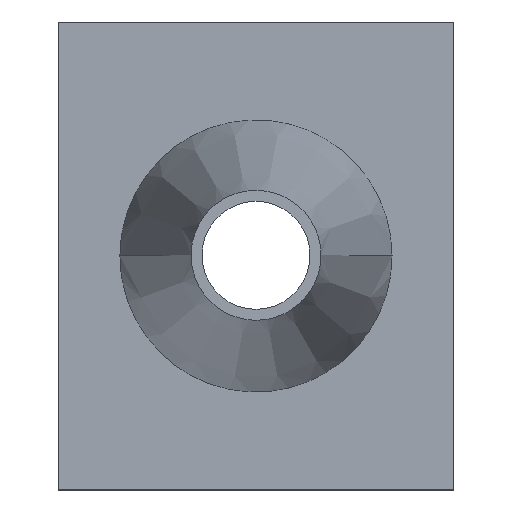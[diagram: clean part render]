
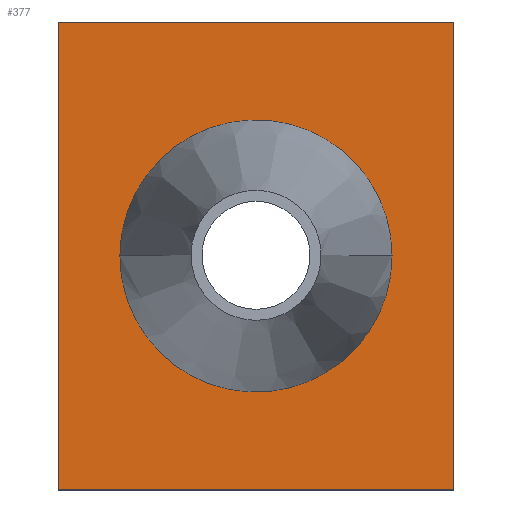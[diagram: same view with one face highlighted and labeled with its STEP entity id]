
A CAD part, top view. The second image highlights one B-rep face of the part: STEP entity #377.
In plain terms, the highlighted planar face has unit normal (0, 0, 1).
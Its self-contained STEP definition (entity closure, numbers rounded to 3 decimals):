
#167=CARTESIAN_POINT('Vertex',(0.,130.,3.)) ;
#174=CARTESIAN_POINT('Vertex',(0.,0.,3.)) ;
#177=CARTESIAN_POINT('Line Origine',(0.,65.,3.)) ;
#198=CARTESIAN_POINT('Vertex',(110.,130.,3.)) ;
#201=CARTESIAN_POINT('Line Origine',(55.,130.,3.)) ;
#222=CARTESIAN_POINT('Vertex',(110.,0.,3.)) ;
#225=CARTESIAN_POINT('Line Origine',(110.,65.,3.)) ;
#242=CARTESIAN_POINT('Line Origine',(55.,0.,3.)) ;
#324=CARTESIAN_POINT('Axis2P3D Location',(0.,0.,3.)) ;
#336=CARTESIAN_POINT('Control Point',(92.795,65.,3.)) ;
#337=CARTESIAN_POINT('Control Point',(92.795,71.039,3.)) ;
#338=CARTESIAN_POINT('Control Point',(91.589,77.078,3.)) ;
#339=CARTESIAN_POINT('Control Point',(89.175,82.795,3.)) ;
#340=CARTESIAN_POINT('Control Point',(82.202,92.949,3.)) ;
#341=CARTESIAN_POINT('Control Point',(71.864,99.644,3.)) ;
#342=CARTESIAN_POINT('Control Point',(66.082,101.903,3.)) ;
#343=CARTESIAN_POINT('Control Point',(53.942,103.987,3.)) ;
#344=CARTESIAN_POINT('Control Point',(41.932,101.247,3.)) ;
#345=CARTESIAN_POINT('Control Point',(36.281,98.678,3.)) ;
#346=CARTESIAN_POINT('Control Point',(26.66,91.678,3.)) ;
#347=CARTESIAN_POINT('Control Point',(20.35,81.626,3.)) ;
#348=CARTESIAN_POINT('Control Point',(18.253,76.257,3.)) ;
#349=CARTESIAN_POINT('Control Point',(17.205,70.629,3.)) ;
#350=CARTESIAN_POINT('Control Point',(17.205,65.,3.)) ;
#351=CARTESIAN_POINT('Vertex',(92.795,65.,3.)) ;
#353=CARTESIAN_POINT('Vertex',(17.205,65.,3.)) ;
#357=CARTESIAN_POINT('Control Point',(92.795,65.,3.)) ;
#358=CARTESIAN_POINT('Control Point',(92.795,58.961,3.)) ;
#359=CARTESIAN_POINT('Control Point',(91.589,52.922,3.)) ;
#360=CARTESIAN_POINT('Control Point',(89.175,47.205,3.)) ;
#361=CARTESIAN_POINT('Control Point',(82.202,37.051,3.)) ;
#362=CARTESIAN_POINT('Control Point',(71.864,30.356,3.)) ;
#363=CARTESIAN_POINT('Control Point',(66.082,28.097,3.)) ;
#364=CARTESIAN_POINT('Control Point',(53.942,26.013,3.)) ;
#365=CARTESIAN_POINT('Control Point',(41.932,28.753,3.)) ;
#366=CARTESIAN_POINT('Control Point',(36.281,31.322,3.)) ;
#367=CARTESIAN_POINT('Control Point',(26.66,38.322,3.)) ;
#368=CARTESIAN_POINT('Control Point',(20.35,48.374,3.)) ;
#369=CARTESIAN_POINT('Control Point',(18.253,53.743,3.)) ;
#370=CARTESIAN_POINT('Control Point',(17.205,59.371,3.)) ;
#371=CARTESIAN_POINT('Control Point',(17.205,65.,3.)) ;
#178=DIRECTION('Vector Direction',(0.,1.,0.)) ;
#202=DIRECTION('Vector Direction',(-1.,0.,0.)) ;
#226=DIRECTION('Vector Direction',(0.,1.,0.)) ;
#243=DIRECTION('Vector Direction',(1.,0.,0.)) ;
#325=DIRECTION('Axis2P3D Direction',(0.,0.,1.)) ;
#326=DIRECTION('Axis2P3D XDirection',(1.,0.,0.)) ;
#327=AXIS2_PLACEMENT_3D('Plane Axis2P3D',#324,#325,#326) ;
#330=ORIENTED_EDGE('',*,*,#181,.F.) ;
#331=ORIENTED_EDGE('',*,*,#246,.T.) ;
#332=ORIENTED_EDGE('',*,*,#229,.T.) ;
#333=ORIENTED_EDGE('',*,*,#205,.T.) ;
#374=ORIENTED_EDGE('',*,*,#355,.F.) ;
#375=ORIENTED_EDGE('',*,*,#372,.T.) ;
#376=FACE_BOUND('',#373,.T.) ;
#179=VECTOR('Line Direction',#178,1.) ;
#203=VECTOR('Line Direction',#202,1.) ;
#227=VECTOR('Line Direction',#226,1.) ;
#244=VECTOR('Line Direction',#243,1.) ;
#377=ADVANCED_FACE('PartBody',(#334,#376),#328,.T.) ;
#335=B_SPLINE_CURVE_WITH_KNOTS('',5,(#336,#337,#338,#339,#340,#341,#342,#343,#344,#345,#346,#347,#348,#349,#350),.UNSPECIFIED.,.F.,.U.,(6,3,3,3,6),(0.,32.485,64.975,97.464,127.742),.UNSPECIFIED.) ;
#356=B_SPLINE_CURVE_WITH_KNOTS('',5,(#357,#358,#359,#360,#361,#362,#363,#364,#365,#366,#367,#368,#369,#370,#371),.UNSPECIFIED.,.F.,.U.,(6,3,3,3,6),(0.,32.485,64.975,97.464,127.742),.UNSPECIFIED.) ;
#181=EDGE_CURVE('',#175,#168,#180,.T.) ;
#205=EDGE_CURVE('',#199,#168,#204,.T.) ;
#229=EDGE_CURVE('',#223,#199,#228,.T.) ;
#246=EDGE_CURVE('',#175,#223,#245,.T.) ;
#355=EDGE_CURVE('',#352,#354,#335,.T.) ;
#372=EDGE_CURVE('',#352,#354,#356,.T.) ;
#329=EDGE_LOOP('',(#330,#331,#332,#333)) ;
#373=EDGE_LOOP('',(#374,#375)) ;
#334=FACE_OUTER_BOUND('',#329,.T.) ;
#180=LINE('Line',#177,#179) ;
#204=LINE('Line',#201,#203) ;
#228=LINE('Line',#225,#227) ;
#245=LINE('Line',#242,#244) ;
#328=PLANE('',#327) ;
#168=VERTEX_POINT('',#167) ;
#175=VERTEX_POINT('',#174) ;
#199=VERTEX_POINT('',#198) ;
#223=VERTEX_POINT('',#222) ;
#352=VERTEX_POINT('',#351) ;
#354=VERTEX_POINT('',#353) ;
